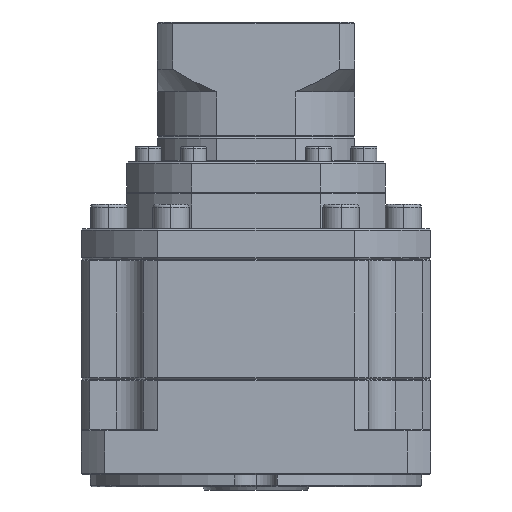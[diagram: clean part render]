
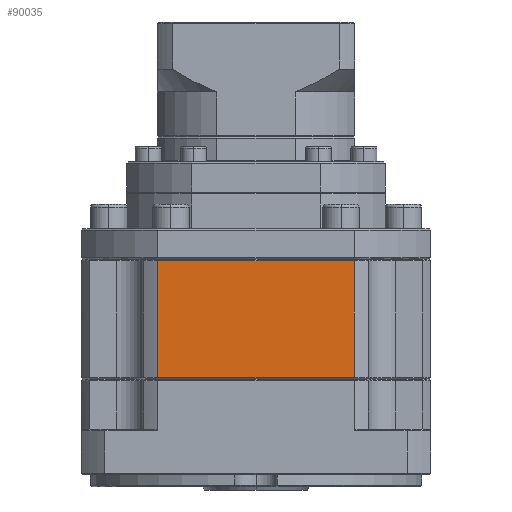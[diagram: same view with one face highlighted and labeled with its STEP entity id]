
A CAD part, front view. The second image highlights one B-rep face of the part: STEP entity #90035.
In plain terms, the highlighted planar face has unit normal (0, -1, 0).
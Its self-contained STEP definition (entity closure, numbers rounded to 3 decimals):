
#279 = DIRECTION ( 'NONE',  ( 0., 0., -1. ) ) ;
#1900 = AXIS2_PLACEMENT_3D ( 'NONE', #75145, #20661, #84190 ) ;
#2905 = FACE_OUTER_BOUND ( 'NONE', #11505, .T. ) ;
#3926 = EDGE_CURVE ( 'NONE', #30089, #72523, #84744, .T. ) ;
#7837 = ORIENTED_EDGE ( 'NONE', *, *, #56716, .F. ) ;
#11505 = EDGE_LOOP ( 'NONE', ( #7837, #33707, #35299, #17075 ) ) ;
#15455 = VECTOR ( 'NONE', #17635, 1000. ) ;
#16383 = CARTESIAN_POINT ( 'NONE',  ( -38.002, -15.6, -92.827 ) ) ;
#16760 = CARTESIAN_POINT ( 'NONE',  ( -102.802, -15.6, -92.827 ) ) ;
#17075 = ORIENTED_EDGE ( 'NONE', *, *, #40471, .F. ) ;
#17635 = DIRECTION ( 'NONE',  ( -1., 0., 0. ) ) ;
#20661 = DIRECTION ( 'NONE',  ( 0., 1., 0. ) ) ;
#22979 = VECTOR ( 'NONE', #75390, 1000. ) ;
#30089 = VERTEX_POINT ( 'NONE', #111491 ) ;
#33707 = ORIENTED_EDGE ( 'NONE', *, *, #3926, .F. ) ;
#33733 = CARTESIAN_POINT ( 'NONE',  ( -102.802, -15.6, -54.327 ) ) ;
#35299 = ORIENTED_EDGE ( 'NONE', *, *, #73554, .F. ) ;
#37601 = VECTOR ( 'NONE', #44551, 1000. ) ;
#38560 = PLANE ( 'NONE',  #1900 ) ;
#40471 = EDGE_CURVE ( 'NONE', #53760, #100609, #107143, .T. ) ;
#44551 = DIRECTION ( 'NONE',  ( 0., 0., 1. ) ) ;
#53760 = VERTEX_POINT ( 'NONE', #16760 ) ;
#56716 = EDGE_CURVE ( 'NONE', #72523, #53760, #85057, .T. ) ;
#60586 = VECTOR ( 'NONE', #279, 1000. ) ;
#63318 = CARTESIAN_POINT ( 'NONE',  ( -12.902, -15.6, -92.827 ) ) ;
#71362 = LINE ( 'NONE', #93552, #22979 ) ;
#72523 = VERTEX_POINT ( 'NONE', #16383 ) ;
#73018 = CARTESIAN_POINT ( 'NONE',  ( -38.002, -15.6, -288.153 ) ) ;
#73554 = EDGE_CURVE ( 'NONE', #100609, #30089, #71362, .T. ) ;
#75145 = CARTESIAN_POINT ( 'NONE',  ( -12.902, -15.6, -53.827 ) ) ;
#75390 = DIRECTION ( 'NONE',  ( 1., 0., 0. ) ) ;
#84190 = DIRECTION ( 'NONE',  ( -1., 0., 0. ) ) ;
#84744 = LINE ( 'NONE', #73018, #60586 ) ;
#85057 = LINE ( 'NONE', #63318, #15455 ) ;
#90035 = ADVANCED_FACE ( 'NONE', ( #2905 ), #38560, .F. ) ;
#93552 = CARTESIAN_POINT ( 'NONE',  ( -70.402, -15.6, -54.327 ) ) ;
#100609 = VERTEX_POINT ( 'NONE', #33733 ) ;
#107143 = LINE ( 'NONE', #107650, #37601 ) ;
#107650 = CARTESIAN_POINT ( 'NONE',  ( -102.802, -15.6, -53.827 ) ) ;
#111491 = CARTESIAN_POINT ( 'NONE',  ( -38.002, -15.6, -54.327 ) ) ;
